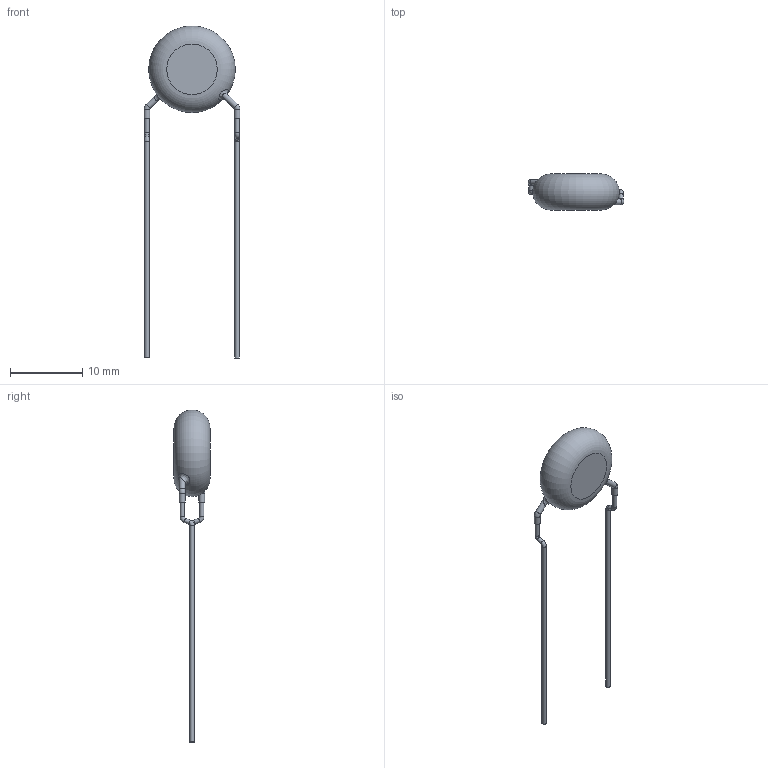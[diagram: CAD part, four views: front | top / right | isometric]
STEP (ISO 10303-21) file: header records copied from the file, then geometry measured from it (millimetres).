
FILE_DESCRIPTION((''),'2;1');
FILE_NAME('I:\Marketing\M6t1\3D-Models\Zchng-Werk-3\Upload for homepage\BCC\VY1-Compact\Y5U-12,5mm\VY1272M47Y5UC63VX\VY1272M47Y5UC63VX.stp','2015-09-01T11:55:16',('sherden'),(''),'Autodesk Inventor 2013','Autodesk Inventor 2013','');
FILE_SCHEMA(('CONFIG_CONTROL_DESIGN'));
Length unit declared in the file: millimetre
Products named in the file (1): VY1272M47Y5UC63VX
Bounding box: 13.3 x 5 x 46 mm (x, y, z)
Volume: 497.5 mm3; surface area: 475.9 mm2
Topology: 1 solids, 1 shells, 25 faces, 45 edges, 26 vertices
Faces by surface type: cylinder 10, torus 7, plane 6, bspline 2
Full cylindrical faces by diameter (mm): 0.6 x6, 0.8 x4
Entity records: 835 total; most frequent: CARTESIAN_POINT 358, DIRECTION 92, ORIENTED_EDGE 52, AXIS2_PLACEMENT_3D 46, EDGE_LOOP 46, EDGE_CURVE 26, STYLED_ITEM 26, FACE_OUTER_BOUND 25
